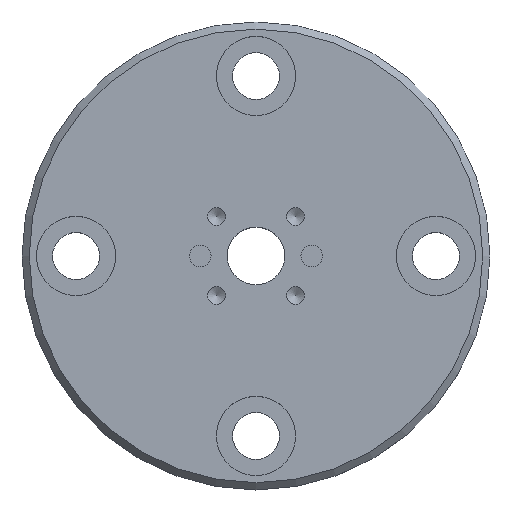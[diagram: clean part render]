
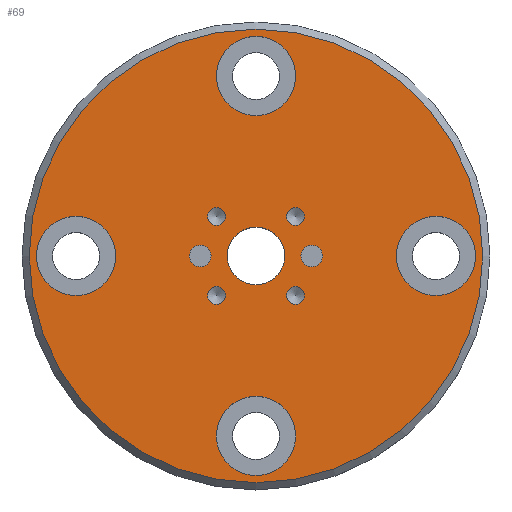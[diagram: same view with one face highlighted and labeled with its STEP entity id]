
A CAD part, top view. The second image highlights one B-rep face of the part: STEP entity #69.
In plain terms, the highlighted planar face has unit normal (0, 0, 1).
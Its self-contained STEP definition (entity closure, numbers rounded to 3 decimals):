
#69=ADVANCED_FACE('',(#170,#171,#172,#173,#174,#175,#176,#177,#178,#179,#180,#181),#182,.T.);
#170=FACE_OUTER_BOUND('',#345,.T.);
#171=FACE_BOUND('',#346,.T.);
#172=FACE_BOUND('',#347,.T.);
#173=FACE_BOUND('',#348,.T.);
#174=FACE_BOUND('',#349,.T.);
#175=FACE_BOUND('',#350,.T.);
#176=FACE_BOUND('',#351,.T.);
#177=FACE_BOUND('',#352,.T.);
#178=FACE_BOUND('',#353,.T.);
#179=FACE_BOUND('',#354,.T.);
#180=FACE_BOUND('',#355,.T.);
#181=FACE_BOUND('',#356,.T.);
#182=PLANE('',#357);
#345=EDGE_LOOP('',(#520));
#346=EDGE_LOOP('',(#521));
#347=EDGE_LOOP('',(#522));
#348=EDGE_LOOP('',(#523));
#349=EDGE_LOOP('',(#524));
#350=EDGE_LOOP('',(#525));
#351=EDGE_LOOP('',(#526));
#352=EDGE_LOOP('',(#527));
#353=EDGE_LOOP('',(#528));
#354=EDGE_LOOP('',(#529));
#355=EDGE_LOOP('',(#530));
#356=EDGE_LOOP('',(#531));
#357=AXIS2_PLACEMENT_3D('',#532,#533,#534);
#520=ORIENTED_EDGE('',*,*,#756,.T.);
#521=ORIENTED_EDGE('',*,*,#757,.F.);
#522=ORIENTED_EDGE('',*,*,#758,.F.);
#523=ORIENTED_EDGE('',*,*,#759,.F.);
#524=ORIENTED_EDGE('',*,*,#760,.F.);
#525=ORIENTED_EDGE('',*,*,#761,.T.);
#526=ORIENTED_EDGE('',*,*,#762,.T.);
#527=ORIENTED_EDGE('',*,*,#763,.T.);
#528=ORIENTED_EDGE('',*,*,#764,.T.);
#529=ORIENTED_EDGE('',*,*,#765,.T.);
#530=ORIENTED_EDGE('',*,*,#766,.T.);
#531=ORIENTED_EDGE('',*,*,#754,.T.);
#532=CARTESIAN_POINT('',(0.0,0.0,9.0));
#533=DIRECTION('',(0.0,0.0,1.0));
#534=DIRECTION('',(1.0,0.0,0.0));
#754=EDGE_CURVE('',#842,#842,#843,.T.);
#756=EDGE_CURVE('',#845,#845,#846,.T.);
#757=EDGE_CURVE('',#847,#847,#848,.T.);
#758=EDGE_CURVE('',#849,#849,#850,.T.);
#759=EDGE_CURVE('',#851,#851,#852,.T.);
#760=EDGE_CURVE('',#853,#853,#854,.T.);
#761=EDGE_CURVE('',#855,#855,#856,.T.);
#762=EDGE_CURVE('',#857,#857,#858,.T.);
#763=EDGE_CURVE('',#859,#859,#860,.T.);
#764=EDGE_CURVE('',#861,#861,#862,.T.);
#765=EDGE_CURVE('',#863,#863,#864,.T.);
#766=EDGE_CURVE('',#865,#865,#866,.T.);
#842=VERTEX_POINT('',#967);
#843=CIRCLE('',#968,4.0);
#845=VERTEX_POINT('',#970);
#846=CIRCLE('',#971,31.5);
#847=VERTEX_POINT('',#972);
#848=CIRCLE('',#973,1.25);
#849=VERTEX_POINT('',#974);
#850=CIRCLE('',#975,1.25);
#851=VERTEX_POINT('',#976);
#852=CIRCLE('',#977,1.25);
#853=VERTEX_POINT('',#978);
#854=CIRCLE('',#979,1.25);
#855=VERTEX_POINT('',#980);
#856=CIRCLE('',#981,1.5);
#857=VERTEX_POINT('',#982);
#858=CIRCLE('',#983,1.5);
#859=VERTEX_POINT('',#984);
#860=CIRCLE('',#985,5.5);
#861=VERTEX_POINT('',#986);
#862=CIRCLE('',#987,5.5);
#863=VERTEX_POINT('',#988);
#864=CIRCLE('',#989,5.5);
#865=VERTEX_POINT('',#990);
#866=CIRCLE('',#991,5.5);
#967=CARTESIAN_POINT('',(4.0,0.0,9.0));
#968=AXIS2_PLACEMENT_3D('',#1092,#1093,#1094);
#970=CARTESIAN_POINT('',(31.5,0.0,9.0));
#971=AXIS2_PLACEMENT_3D('',#1095,#1096,#1097);
#972=CARTESIAN_POINT('',(4.596,6.364,9.0));
#973=AXIS2_PLACEMENT_3D('',#1098,#1099,#1100);
#974=CARTESIAN_POINT('',(-6.364,4.596,9.0));
#975=AXIS2_PLACEMENT_3D('',#1101,#1102,#1103);
#976=CARTESIAN_POINT('',(-4.596,-6.364,9.0));
#977=AXIS2_PLACEMENT_3D('',#1104,#1105,#1106);
#978=CARTESIAN_POINT('',(6.364,-4.596,9.0));
#979=AXIS2_PLACEMENT_3D('',#1107,#1108,#1109);
#980=CARTESIAN_POINT('',(-9.25,0.,9.0));
#981=AXIS2_PLACEMENT_3D('',#1110,#1111,#1112);
#982=CARTESIAN_POINT('',(9.25,0.0,9.0));
#983=AXIS2_PLACEMENT_3D('',#1113,#1114,#1115);
#984=CARTESIAN_POINT('',(0.,30.5,9.0));
#985=AXIS2_PLACEMENT_3D('',#1116,#1117,#1118);
#986=CARTESIAN_POINT('',(-30.5,0.,9.0));
#987=AXIS2_PLACEMENT_3D('',#1119,#1120,#1121);
#988=CARTESIAN_POINT('',(0.0,-30.5,9.0));
#989=AXIS2_PLACEMENT_3D('',#1122,#1123,#1124);
#990=CARTESIAN_POINT('',(30.5,0.0,9.0));
#991=AXIS2_PLACEMENT_3D('',#1125,#1126,#1127);
#1092=CARTESIAN_POINT('',(0.0,0.0,9.0));
#1093=DIRECTION('',(0.0,0.0,-1.0));
#1094=DIRECTION('',(1.0,0.0,0.0));
#1095=CARTESIAN_POINT('',(0.0,0.0,9.0));
#1096=DIRECTION('',(0.0,0.0,1.0));
#1097=DIRECTION('',(1.0,0.0,0.0));
#1098=CARTESIAN_POINT('',(5.48,5.48,9.0));
#1099=DIRECTION('',(0.,0.,1.0));
#1100=DIRECTION('',(-0.707,0.707,0.));
#1101=CARTESIAN_POINT('',(-5.48,5.48,9.0));
#1102=DIRECTION('',(0.,0.,1.0));
#1103=DIRECTION('',(-0.707,-0.707,0.));
#1104=CARTESIAN_POINT('',(-5.48,-5.48,9.0));
#1105=DIRECTION('',(0.,0.,1.0));
#1106=DIRECTION('',(0.707,-0.707,0.));
#1107=CARTESIAN_POINT('',(5.48,-5.48,9.0));
#1108=DIRECTION('',(0.,0.,1.0));
#1109=DIRECTION('',(0.707,0.707,0.));
#1110=CARTESIAN_POINT('',(-7.75,0.,9.0));
#1111=DIRECTION('',(0.0,0.0,-1.0));
#1112=DIRECTION('',(-1.0,0.0,0.0));
#1113=CARTESIAN_POINT('',(7.75,0.0,9.0));
#1114=DIRECTION('',(0.0,0.0,-1.0));
#1115=DIRECTION('',(1.0,0.0,0.0));
#1116=CARTESIAN_POINT('',(0.,25.0,9.0));
#1117=DIRECTION('',(0.0,0.0,-1.0));
#1118=DIRECTION('',(0.0,1.0,0.0));
#1119=CARTESIAN_POINT('',(-25.0,0.,9.0));
#1120=DIRECTION('',(0.0,0.0,-1.0));
#1121=DIRECTION('',(-1.0,0.0,0.0));
#1122=CARTESIAN_POINT('',(0.0,-25.0,9.0));
#1123=DIRECTION('',(0.0,0.0,-1.0));
#1124=DIRECTION('',(0.0,-1.0,0.0));
#1125=CARTESIAN_POINT('',(25.0,0.0,9.0));
#1126=DIRECTION('',(0.0,0.0,-1.0));
#1127=DIRECTION('',(1.0,0.0,0.0));
